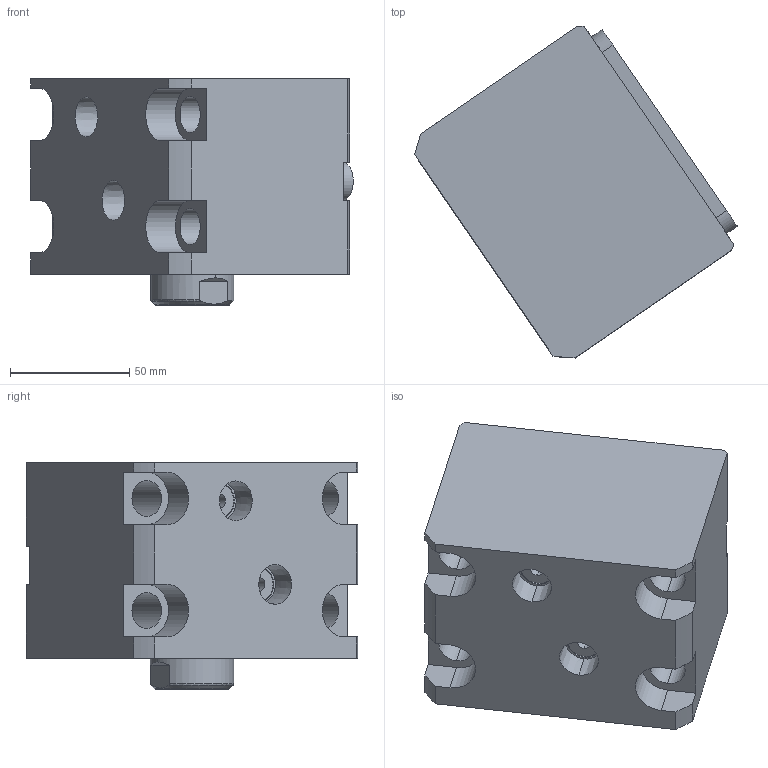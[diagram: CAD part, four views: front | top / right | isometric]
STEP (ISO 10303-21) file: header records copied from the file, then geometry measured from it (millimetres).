
FILE_DESCRIPTION (( 'STEP AP214' ), '1' );
FILE_NAME ('chtb-la63x15n_asm.STEP', '2018-05-02T03:45:38', ( 'Windows' ), ( 'Microsoft' ), 'SwSTEP 2.0', 'SolidWorks 2015', '' );
FILE_SCHEMA (( 'AUTOMOTIVE_DESIGN' ));
Length unit declared in the file: millimetre
Products named in the file (5): CHTB-LA63X15NBT; CHTB-LA63PJ; CHTB63X15NHSG; CHTB-63QG; chtb-la63x15n_asm
Assembly tree (4 placements, depth 2):
  chtb-la63x15n_asm
    CHTB-63QG
    CHTB63X15NHSG
    CHTB-LA63PJ
    CHTB-LA63X15NBT
Bounding box: 135.18 x 139 x 95 mm (x, y, z)
Volume: 723645.9 mm3; surface area: 127537 mm2
Topology: 4 solids, 4 shells, 174 faces, 510 edges, 348 vertices
Faces by surface type: cylinder 98, plane 45, bspline 12, cone 12, torus 7
Entity records: 18199 total; most frequent: CARTESIAN_POINT 13678, ORIENTED_EDGE 1008, DIRECTION 778, EDGE_CURVE 504, VERTEX_POINT 348, AXIS2_PLACEMENT_3D 295, EDGE_LOOP 198, LINE 188
